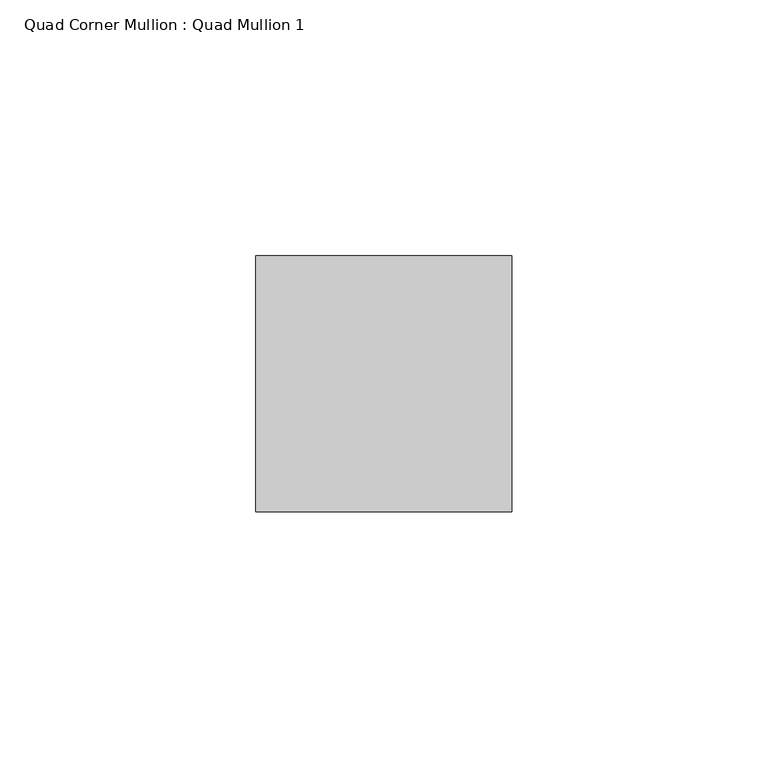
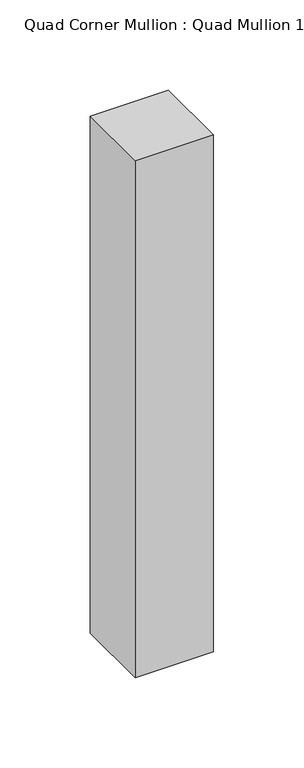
"""IFC4 building model written with IfcOpenShell, lengths in millimetres: member geometry, Quad Corner Mullion : Quad Mullion 1."""

from ifc_helpers import new_model, si_unit, frame, origin, place, context, project, spatial, polyline, outline, extrude, source, transform, mapped, element, save


def quad_corner_mullion_quad_mullion_1_6283df9f(model_context):
    return source(origin(), model_context, "Body", "SweptSolid", [
        extrude(outline(polyline([(25.0, -25.0), (-25.0, -25.0), (-25.0, 25.0), (25.0, 25.0), (25.0, -25.0)])), frame((0.0, 0.0, -350.0), z_axis=(0.0, 0.0, 1.0), x_axis=(1.0, 0.0, 0.0)), (0.0, 0.0, 1.0), 350.0),
    ])


if __name__ == "__main__":
    model = new_model("IFC4")
    model_context = context("Model", 3, world=origin())
    ifc_project = project(units=[si_unit("LENGTHUNIT", "METRE", prefix="MILLI")], contexts=[model_context])
    site = spatial("IfcSite", under=ifc_project)
    building = spatial("IfcBuilding", under=site)
    placement = place(None, origin())
    quad_corner_mullion_quad_mullion_1_shape = quad_corner_mullion_quad_mullion_1_6283df9f(model_context)
    element("IfcMember", 1, ObjectType="Quad Corner Mullion : Quad Mullion 1", at=placement, inside=building, context=model_context, shape_type="MappedRepresentation", body=[
        mapped(quad_corner_mullion_quad_mullion_1_shape, transform((0.0, 0.0, 0.0), x_axis=(1.0, 0.0, 0.0), y_axis=(0.0, 1.0, 0.0), z_axis=(0.0, 0.0, 1.0))),
    ])
    save(model, "model.ifc")
